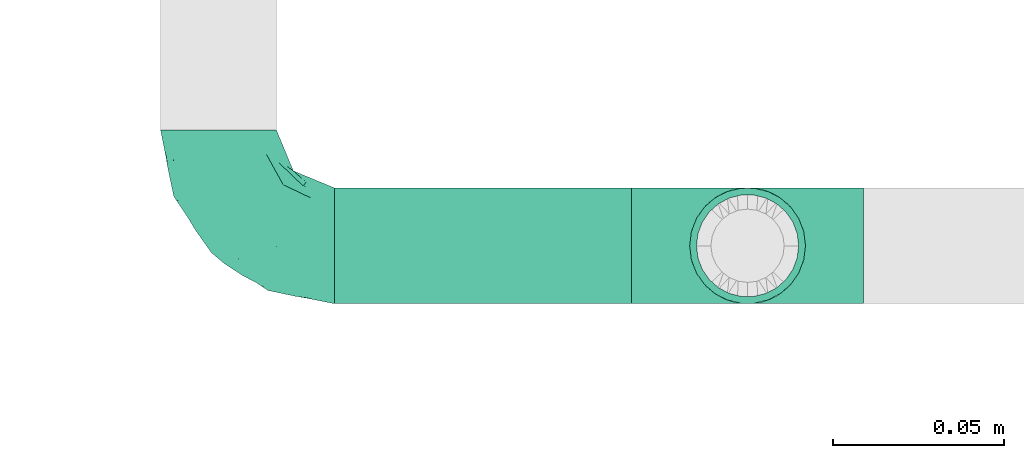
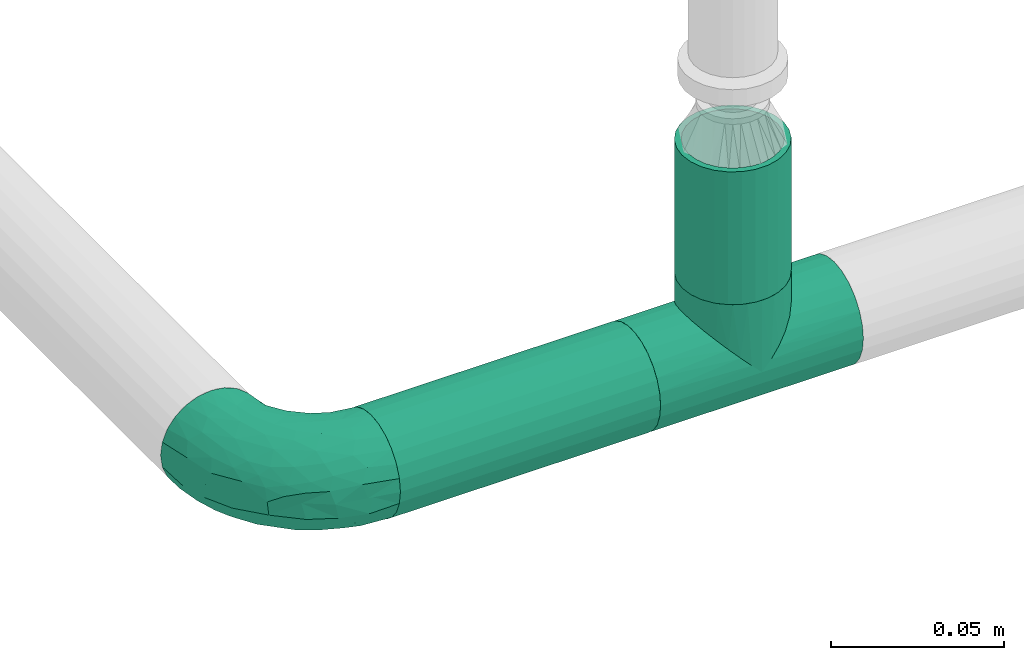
# One storey, part 52 of 157: 2 flow fittings, 2 flow segments.
"""IFC2X3 building model written with IfcOpenShell, lengths in millimetres."""

from ifc_helpers import new_model, entity, si_unit, converted_unit, derived_unit, direction, frame, origin_with_axes, origin_2d_with_axis, place, context, subcontext, project, spatial, hollow_circle, extrude, open_shell, surface_model, source, transform, mapped, type_object, element, save


model = new_model("IFC2X3")

# Units and contexts
model_context = context("Model", 3, precision=0.01, world=frame((0.0, 4.29681676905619e-09, 0.0)), true_north=direction((4.01073788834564e-13, 1.0)))
plan_context = context("Plan", 3, precision=0.01, world=frame((0.0, 4.29681676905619e-09, 0.0)), true_north=direction((4.01073788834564e-13, 1.0)))
body_context = subcontext(model_context, "Body", "Model", "MODEL_VIEW")
ifc_project = project(units=[converted_unit("PLANEANGLEUNIT", "DEGREE", entity("IfcPositiveLengthMeasure", 0.0174532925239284), si_unit("PLANEANGLEUNIT", "RADIAN"), dimensions=[0, 0, 0, 0, 0, 0, 0]), si_unit("AREAUNIT", "SQUARE_METRE"), si_unit("LENGTHUNIT", "METRE", prefix="MILLI"), si_unit("MASSUNIT", "GRAM", prefix="KILO"), si_unit("POWERUNIT", "WATT"), si_unit("PRESSUREUNIT", "PASCAL"), si_unit("FORCEUNIT", "NEWTON", prefix="KILO"), si_unit("ELECTRICCURRENTUNIT", "AMPERE"), si_unit("THERMODYNAMICTEMPERATUREUNIT", "DEGREE_CELSIUS"), si_unit("TIMEUNIT", "SECOND"), si_unit("VOLUMEUNIT", "CUBIC_METRE"), derived_unit("LINEARVELOCITYUNIT", [(si_unit("LENGTHUNIT", "METRE"), 1), (si_unit("TIMEUNIT", "SECOND"), -1)]), derived_unit("VOLUMETRICFLOWRATEUNIT", [(si_unit("VOLUMEUNIT", "CUBIC_METRE"), 1), (si_unit("TIMEUNIT", "SECOND"), -1)]), derived_unit("THERMALTRANSMITTANCEUNIT", [(si_unit("POWERUNIT", "WATT"), 1), (si_unit("THERMODYNAMICTEMPERATUREUNIT", "KELVIN"), -1), (si_unit("AREAUNIT", "SQUARE_METRE"), -1)])], contexts=[model_context, plan_context])

# Site, building, storey
site_placement = place(None, frame((0.0, -4.29681676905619e-09, 0.0), z_axis=(0.0, 0.0, 1.0), x_axis=(1.0, 0.0, 0.0)))
site = spatial("IfcSite", under=ifc_project, at=site_placement, CompositionType="ELEMENT")
building_placement = place(site_placement, frame((0.0, 4.29681676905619e-09, 0.0), z_axis=(0.0, 0.0, 1.0), x_axis=(1.0, 0.0, 0.0)))
building = spatial("IfcBuilding", under=site, at=building_placement, Name="mc-building", CompositionType="ELEMENT")
storey_placement = place(building_placement, frame((0.0, 0.0, 204000.0), z_axis=(0.0, 0.0, 1.0), x_axis=(1.0, 0.0, 0.0)))
storey = spatial("IfcBuildingStorey", under=building, at=storey_placement, Name="Nivå D", CompositionType="ELEMENT", Elevation=204000.0)

# Flow fittings
pipe_fitting_type_1 = type_object("IfcPipeFittingType", Name="magi_pipe_fe_tee_centric_90_NOR", PredefinedType="JUNCTION")
shared_shape_1 = source(origin_with_axes(), body_context, "Body", "SurfaceModel", [
    surface_model("IfcShellBasedSurfaceModel", [(-33.8, 4.37404, -16.32415), (-33.8, 0.0, -16.9), (-33.8, 16.32415, -4.37404), (-33.8, 8.45, -14.63583), (-33.8, 11.9501, -11.9501), (-33.8, 14.63583, -8.45), (-33.8, -16.9, 0.0), (-33.8, -11.9501, -11.9501), (-33.8, -14.63583, -8.45), (-33.8, -8.45, -14.63583), (-33.8, -4.37404, -16.32415), (-33.8, -16.32415, -4.37404), (-33.8, 14.63583, 8.45), (-33.8, 16.32415, 4.37404), (-33.8, -8.45, 14.63583), (-33.8, 8.45, 14.63583), (-33.8, 11.9501, 11.9501), (-33.8, 4.37404, 16.32415), (-33.8, 0.0, 16.9), (-33.8, -11.9501, 11.9501), (-33.8, -14.63583, 8.45), (-33.8, -16.32415, 4.37404), (-33.8, -4.37404, 16.32415), (-33.8, 16.9, 0.0), (33.8, 4.37404, -16.32415), (33.8, -16.9, 0.0), (33.8, 0.0, -16.9), (33.8, 14.63583, -8.45), (33.8, 8.45, -14.63583), (33.8, 16.32415, -4.37404), (33.8, 11.9501, -11.9501), (33.8, -16.32415, 4.37404), (33.8, -8.45, -14.63583), (33.8, -4.37404, -16.32415), (33.8, -11.9501, -11.9501), (33.8, -14.63583, -8.45), (33.8, -16.32415, -4.37404), (33.8, 16.32415, 4.37404), (33.8, 8.45, 14.63583), (33.8, 14.63583, 8.45), (33.8, 11.9501, 11.9501), (33.8, -8.45, 14.63583), (33.8, 4.37404, 16.32415), (33.8, -14.63583, 8.45), (33.8, -11.9501, 11.9501), (33.8, 0.0, 16.9), (33.8, -4.37404, 16.32415), (33.8, 16.9, 0.0), (16.28698, -16.28698, 4.51047), (16.9, -16.9, 0.0), (14.62704, -14.62704, 8.4652), (9.47213, -9.47213, 13.99602), (12.26343, -12.26343, 11.62834), (-16.9, -16.9, 0.0), (-16.28698, -16.28698, 4.51047), (-14.62704, -14.62704, 8.4652), (-12.26343, -12.26343, 11.62834), (-9.47213, -9.47213, 13.99602), (-6.42894, -6.42894, 15.62942), (6.42894, -6.42894, 15.62942), (3.24522, -3.24522, 16.58549), (0.0, 0.0, 16.9), (-3.24522, -3.24522, 16.58549), (3.24522, -3.24522, -16.58549), (0.0, 0.0, -16.9), (-3.24522, -3.24522, -16.58549), (-6.42894, -6.42894, -15.62942), (6.42894, -6.42894, -15.62942), (9.47213, -9.47213, -13.99602), (12.26343, -12.26343, -11.62834), (14.62704, -14.62704, -8.4652), (16.28698, -16.28698, -4.51047), (-9.47213, -9.47213, -13.99602), (-12.26343, -12.26343, -11.62834), (-16.28698, -16.28698, -4.51047), (-14.62704, -14.62704, -8.4652), (4.37404, -25.35, -16.32415), (-16.9, -25.35, 0.0), (0.0, -25.35, -16.9), (14.63583, -25.35, -8.45), (8.45, -25.35, -14.63583), (16.32415, -25.35, -4.37404), (11.9501, -25.35, -11.9501), (-11.9501, -25.35, -11.9501), (-8.45, -25.35, -14.63583), (-4.37404, -25.35, -16.32415), (-14.63583, -25.35, -8.45), (-16.32415, -25.35, -4.37404), (16.9, -25.35, 0.0), (8.45, -25.35, 14.63583), (16.32415, -25.35, 4.37404), (14.63583, -25.35, 8.45), (-8.45, -25.35, 14.63583), (11.9501, -25.35, 11.9501), (4.37404, -25.35, 16.32415), (-16.32415, -25.35, 4.37404), (-11.9501, -25.35, 11.9501), (-14.63583, -25.35, 8.45), (0.0, -25.35, 16.9), (-4.37404, -25.35, 16.32415)], [open_shell([[[0, 1, 2]], [[3, 0, 4]], [[0, 2, 5]], [[4, 0, 5]], [[6, 2, 1]], [[7, 8, 9]], [[1, 10, 9]], [[11, 6, 8]], [[1, 9, 8]], [[1, 8, 6]], [[6, 12, 2]], [[12, 13, 2]], [[14, 12, 6]], [[12, 14, 15]], [[16, 12, 15]], [[17, 15, 18]], [[19, 14, 20]], [[21, 20, 14]], [[22, 18, 14]], [[14, 6, 21]], [[14, 18, 15]], [[23, 2, 13]], [[24, 25, 26]], [[27, 24, 28]], [[27, 29, 24]], [[27, 28, 30]], [[31, 25, 24]], [[26, 32, 33]], [[26, 34, 32]], [[35, 25, 36]], [[35, 34, 26]], [[25, 35, 26]], [[24, 29, 31]], [[29, 37, 38]], [[38, 37, 39]], [[38, 31, 29]], [[38, 39, 40]], [[41, 38, 42]], [[43, 41, 44]], [[41, 43, 31]], [[41, 45, 46]], [[41, 31, 38]], [[42, 45, 41]], [[29, 47, 37]], [[31, 43, 48]], [[25, 31, 49]], [[49, 31, 48]], [[43, 50, 48]], [[44, 41, 51]], [[50, 43, 52]], [[51, 52, 44]], [[52, 43, 44]], [[53, 54, 21]], [[53, 21, 6]], [[21, 54, 20]], [[54, 55, 20]], [[56, 57, 19]], [[19, 20, 56]], [[19, 57, 14]], [[56, 20, 55]], [[14, 57, 58]], [[51, 41, 59]], [[60, 45, 61]], [[59, 46, 60]], [[46, 59, 41]], [[60, 46, 45]], [[61, 45, 42]], [[39, 37, 13]], [[16, 38, 40]], [[12, 40, 39]], [[42, 38, 15]], [[23, 37, 47]], [[62, 61, 18]], [[62, 22, 58]], [[22, 62, 18]], [[58, 22, 14]], [[61, 17, 18]], [[42, 17, 61]], [[15, 17, 42]], [[15, 38, 16]], [[12, 16, 40]], [[13, 12, 39]], [[37, 23, 13]], [[5, 27, 30]], [[23, 47, 29]], [[30, 28, 3]], [[27, 2, 29]], [[26, 33, 63]], [[26, 64, 24]], [[64, 26, 63]], [[28, 24, 0]], [[64, 0, 24]], [[4, 30, 3]], [[2, 27, 5]], [[5, 30, 4]], [[2, 23, 29]], [[65, 66, 10]], [[1, 0, 64]], [[1, 65, 10]], [[66, 9, 10]], [[0, 3, 28]], [[1, 64, 65]], [[63, 33, 67]], [[32, 34, 68]], [[69, 68, 34]], [[35, 70, 69]], [[69, 34, 35]], [[32, 68, 67]], [[36, 25, 49]], [[36, 71, 35]], [[71, 36, 49]], [[35, 71, 70]], [[72, 9, 66]], [[72, 7, 9]], [[7, 72, 73]], [[7, 73, 8]], [[74, 53, 11]], [[75, 74, 8]], [[74, 11, 8]], [[11, 53, 6]], [[75, 8, 73]], [[32, 67, 33]], [[76, 77, 78]], [[79, 76, 80]], [[79, 81, 76]], [[79, 80, 82]], [[77, 76, 81]], [[78, 83, 84]], [[84, 85, 78]], [[86, 77, 87]], [[83, 78, 86]], [[77, 86, 78]], [[81, 88, 77]], [[89, 88, 90]], [[89, 90, 91]], [[92, 77, 89]], [[89, 91, 93]], [[92, 89, 94]], [[95, 96, 97]], [[96, 95, 92]], [[92, 98, 99]], [[95, 77, 92]], [[94, 98, 92]], [[89, 77, 88]], [[77, 95, 53]], [[54, 53, 95]], [[97, 96, 56]], [[96, 92, 57]], [[95, 97, 54]], [[58, 92, 99]], [[55, 54, 97]], [[56, 55, 97]], [[58, 57, 92]], [[98, 61, 62]], [[58, 99, 62]], [[56, 96, 57]], [[62, 99, 98]], [[94, 60, 98]], [[89, 59, 94]], [[91, 90, 48]], [[52, 93, 91]], [[93, 51, 89]], [[49, 90, 88]], [[59, 60, 94]], [[51, 59, 89]], [[49, 48, 90]], [[50, 52, 91]], [[48, 50, 91]], [[51, 93, 52]], [[98, 60, 61]], [[88, 81, 49]], [[71, 49, 81]], [[79, 82, 69]], [[82, 80, 68]], [[81, 79, 71]], [[67, 80, 76]], [[70, 71, 79]], [[69, 70, 79]], [[67, 68, 80]], [[78, 64, 63]], [[67, 76, 63]], [[69, 82, 68]], [[63, 76, 78]], [[85, 65, 78]], [[84, 66, 85]], [[86, 87, 74]], [[86, 73, 83]], [[72, 84, 83]], [[53, 87, 77]], [[66, 65, 85]], [[72, 66, 84]], [[53, 74, 87]], [[75, 73, 86]], [[74, 75, 86]], [[72, 83, 73]], [[78, 65, 64]]])]),
])
flow_fitting_1_placement = place(storey_placement, frame((518840.35, 411870.36705, 2930.0), z_axis=(0.0, 1.0, 0.0), x_axis=(1.0, 0.0, 0.0)))
element("IfcFlowFitting", 1, at=flow_fitting_1_placement, inside=storey, type_object=pipe_fitting_type_1, Name="magi_pipe_fe_tee_centric_90_NOR", context=body_context, shape_type="MappedRepresentation", body=[
    mapped(shared_shape_1, transform((0.0, 0.0, 0.0), scale=1.0)),
])
pipe_fitting_type_2 = type_object("IfcPipeFittingType", Name="magi_pipe_fe_elbow_short_001", PredefinedType="BEND")
shared_shape_2 = source(origin_with_axes(), body_context, "Body", "SurfaceModel", [
    surface_model("IfcShellBasedSurfaceModel", [(-33.8, 8.45, -14.63583), (-33.8, 4.37404, -16.32415), (-33.8, 11.9501, -11.9501), (-33.8, -11.9501, -11.9501), (-33.8, -14.63583, -8.45), (-33.8, -8.45, -14.63583), (-33.8, 0.0, -16.9), (-33.8, -4.37404, -16.32415), (-33.8, -4.37404, 16.32415), (-33.8, 0.0, 16.9), (-33.8, -8.45, 14.63583), (-33.8, 16.32415, -4.37404), (-33.8, 14.63583, -8.45), (-33.8, -16.32415, -4.37404), (-33.8, -16.9, 0.0), (-33.8, -16.32415, 4.37404), (-33.8, 11.9501, 11.9501), (-33.8, 14.63583, 8.45), (-33.8, 16.32415, 4.37404), (-33.8, 4.37404, 16.32415), (-33.8, 8.45, 14.63583), (-33.8, -14.63583, 8.45), (-33.8, -11.9501, 11.9501), (-33.8, 16.9, 0.0), (-11.9501, 33.8, -11.9501), (0.0, 33.8, -16.9), (-4.37404, 33.8, -16.32415), (-8.45, 33.8, -14.63583), (-14.63583, 33.8, -8.45), (-16.32415, 33.8, -4.37404), (14.63583, 33.8, -8.45), (8.45, 33.8, 14.63583), (16.32415, 33.8, -4.37404), (8.45, 33.8, -14.63583), (11.9501, 33.8, -11.9501), (4.37404, 33.8, -16.32415), (16.32415, 33.8, 4.37404), (16.9, 33.8, 0.0), (-11.9501, 33.8, 11.9501), (-16.32415, 33.8, 4.37404), (-14.63583, 33.8, 8.45), (-8.45, 33.8, 14.63583), (-4.37404, 33.8, 16.32415), (11.9501, 33.8, 11.9501), (14.63583, 33.8, 8.45), (0.0, 33.8, 16.9), (4.37404, 33.8, 16.32415), (-16.9, 33.8, 0.0), (-24.79389, -13.12945, 9.48721), (-22.19287, -9.75018, 12.59315), (-24.09897, -14.97035, 0.0), (-14.93934, -10.76256, 8.5297), (-22.46095, -14.75051, 5.27077), (14.75051, 22.46094, 5.27077), (11.9251, 13.23888, 4.33236), (13.04069, 14.39795, 0.0), (7.71387, 13.68847, 11.55891), (9.75018, 22.19287, 12.59315), (4.10169, 13.0571, 14.04018), (-24.84007, -6.39063, 15.2048), (-25.81779, -2.23879, 16.61097), (-23.66549, 2.59054, 16.87119), (-26.50418, 14.06512, 11.08152), (-24.21253, 17.66365, 7.72657), (-29.58514, 15.86957, 7.00283), (-6.17382, -7.5455, 0.0), (-13.23888, -11.9251, 4.33236), (-14.39795, -13.04069, 0.0), (-17.81434, 18.87373, 11.97104), (-6.30846, 29.15138, 15.82987), (-2.31622, 25.28002, 16.85849), (-29.23923, 10.23435, 13.77053), (-1.45439, -2.85688, 7.61475), (-0.28326, 0.34872, 10.09509), (-5.74484, -4.04709, 10.4122), (-4.41137, 11.31918, 16.59407), (-8.39727, 3.10034, 15.7812), (-1.72649, 9.1306, 15.53089), (-17.39909, 24.75344, 7.64977), (-26.19233, 20.0512, 0.0), (-28.14518, 17.29657, 4.25857), (-26.05147, 6.6281, 15.96447), (-5.87354, 16.61944, 16.86968), (-12.51807, 12.51807, 16.48937), (-10.06312, 7.38516, 16.81295), (-3.01882, 3.01882, 13.81718), (-13.0571, -4.10169, 14.04018), (-16.82553, -0.15166, 16.38038), (10.76256, 14.93934, 8.5297), (13.12945, 24.79389, 9.48721), (6.39063, 24.84007, 15.2048), (2.23879, 25.81779, 16.61097), (-13.68847, -7.71387, 11.55891), (14.97035, 24.09897, 0.0), (-7.30894, 22.89991, 16.09489), (-10.67958, 26.17414, 14.008), (-12.78295, 18.26924, 15.06066), (-13.88562, 22.45231, 12.93244), (-18.04944, 15.16501, 14.04434), (-23.11658, 20.08178, 4.02986), (-21.84989, 21.84989, 0.0), (-18.55817, 25.48277, 3.93065), (-13.95142, 26.94732, 11.03289), (-18.57098, 7.23906, 16.59756), (-16.58335, 4.14122, 16.89279), (-17.96666, 11.46709, 15.63151), (-9.84453, 17.54304, 16.18938), (0.15166, 16.82553, 16.38038), (-23.27207, 11.47201, 14.23154), (3.84842, 5.86994, 10.70473), (-8.0212, -7.54413, 7.93275), (1.00345, -2.19508, 4.57414), (5.13203, 3.01004, 5.90201), (5.24161, 1.7543, 2.53265), (8.70457, 7.04947, 3.99182), (-20.0512, 26.19233, 0.0), (8.4852, 8.76699, 7.09296), (-4.55488, -6.72064, 4.90681), (2.05031, -2.05031, 0.0), (7.5455, 6.17382, 0.0), (-26.75399, 2.1369, -16.845), (-14.61995, 24.73803, -11.27736), (-28.45274, -13.45335, -9.81895), (-26.00469, 6.63555, -15.96645), (-23.06726, 20.04573, -4.26202), (-13.80647, -4.26506, -14.17873), (-14.67501, -0.21081, -16.07388), (-6.7902, -0.2828, -13.8478), (-24.53586, 11.08096, -14.13417), (-26.72048, 14.00837, -11.05776), (10.0967, 24.44989, -12.75976), (5.83237, 21.40218, -15.03047), (6.66249, 28.54238, -15.38093), (-20.38182, 15.48705, -12.74596), (12.53268, 21.23441, -9.15363), (12.54494, 15.67504, -5.54878), (9.7522, 12.89279, -8.66343), (-15.65186, 19.64213, -13.01327), (-12.03528, 20.66498, -14.67665), (-15.61907, 15.61906, -14.83879), (-25.56551, -15.26206, 0.0), (-24.65452, -15.12934, -5.50955), (13.45335, 28.45274, -9.81895), (15.12934, 24.65452, -5.50955), (-7.35442, -8.31014, -5.65563), (-15.67504, -12.54494, -5.54878), (-24.44989, -10.0967, -12.75976), (0.16522, 0.41303, -9.71728), (-5.70658, -5.33066, -8.89288), (-5.13869, -2.37198, -11.53565), (-21.23441, -12.53268, -9.15363), (0.71146, 7.93863, -14.09382), (0.21081, 14.67501, -16.07388), (3.49291, 14.42772, -14.76381), (-24.89911, -2.13088, -16.591), (-28.54238, -6.66249, -15.38093), (-18.44386, -7.71663, -13.26957), (2.13088, 24.89911, -16.591), (-28.64342, 17.44413, -2.89318), (1.70017, -1.28722, -5.09504), (-16.57067, 26.81947, -7.36596), (-17.69055, 27.4263, -3.76405), (-12.89279, -9.7522, -8.66343), (-5.96611, 5.96611, -15.95814), (-20.53709, 20.09345, -8.28985), (-2.1369, 26.75399, -16.845), (-6.89872, 24.58781, -16.02578), (-10.60739, 26.53157, -13.98044), (-21.40218, -5.83237, -15.03047), (2.93192, 5.89627, -11.55917), (6.89393, 12.61842, -11.82233), (5.58056, 5.95325, -8.79455), (-3.99512, 18.61798, -16.89635), (8.31014, 7.35442, -5.65563), (-9.1383, 9.86148, -16.89041), (-9.99983, 16.02119, -16.39699), (-16.68576, 9.78031, -16.34199), (-27.01915, 16.61158, -7.12979), (15.26206, 25.56551, 0.0), (-18.61798, 3.99512, -16.89635), (-19.37495, 27.82495, 0.0), (-12.61842, -6.89393, -11.82233), (-18.84705, 19.14018, -10.96545)], [open_shell([[[0, 1, 2]], [[3, 4, 5]], [[6, 7, 5]], [[8, 9, 10]], [[1, 6, 2]], [[11, 12, 2]], [[4, 2, 6]], [[2, 13, 10]], [[5, 4, 6]], [[2, 4, 13]], [[14, 15, 13]], [[11, 2, 16]], [[11, 17, 18]], [[11, 16, 17]], [[19, 20, 16]], [[16, 2, 10]], [[19, 16, 10]], [[21, 22, 15]], [[22, 13, 15]], [[22, 10, 13]], [[10, 9, 19]], [[11, 18, 23]], [[24, 25, 26]], [[24, 26, 27]], [[24, 28, 29]], [[25, 24, 30]], [[31, 32, 24]], [[33, 30, 34]], [[33, 35, 25]], [[25, 30, 33]], [[32, 30, 24]], [[32, 36, 37]], [[38, 24, 29]], [[39, 40, 29]], [[40, 38, 29]], [[38, 41, 42]], [[38, 31, 24]], [[31, 38, 42]], [[36, 43, 44]], [[36, 32, 43]], [[31, 45, 46]], [[32, 31, 43]], [[42, 45, 31]], [[39, 29, 47]], [[22, 48, 49]], [[15, 14, 50]], [[51, 48, 52]], [[53, 54, 55]], [[48, 22, 21]], [[15, 52, 21]], [[56, 57, 58]], [[49, 10, 22]], [[49, 59, 10]], [[9, 60, 61]], [[62, 63, 64]], [[65, 66, 67]], [[57, 43, 31]], [[62, 68, 63]], [[42, 69, 70]], [[20, 71, 16]], [[8, 60, 9]], [[72, 73, 74]], [[75, 76, 77]], [[16, 62, 17]], [[40, 39, 78]], [[79, 23, 80]], [[64, 18, 17]], [[9, 61, 19]], [[19, 81, 20]], [[82, 83, 84]], [[74, 85, 86]], [[59, 86, 87]], [[88, 89, 57]], [[90, 31, 46]], [[44, 53, 36]], [[46, 45, 91]], [[54, 53, 88]], [[44, 89, 53]], [[92, 86, 49]], [[89, 44, 43]], [[10, 59, 8]], [[53, 55, 93]], [[93, 36, 53]], [[66, 52, 67]], [[94, 82, 70]], [[95, 96, 94]], [[97, 98, 96]], [[79, 99, 100]], [[41, 38, 95]], [[101, 100, 99]], [[68, 78, 63]], [[42, 41, 69]], [[23, 18, 80]], [[95, 94, 69]], [[78, 101, 99]], [[38, 102, 95]], [[70, 45, 42]], [[97, 95, 102]], [[15, 50, 52]], [[90, 57, 31]], [[57, 90, 58]], [[81, 19, 61]], [[103, 104, 84]], [[105, 81, 103]], [[38, 40, 102]], [[106, 96, 83]], [[94, 106, 82]], [[91, 70, 107]], [[71, 62, 16]], [[62, 108, 98]], [[86, 59, 49]], [[67, 52, 50]], [[60, 59, 87]], [[92, 49, 51]], [[86, 85, 76]], [[91, 90, 46]], [[37, 36, 93]], [[107, 77, 58]], [[107, 58, 90]], [[58, 85, 109]], [[110, 74, 92]], [[72, 74, 110]], [[66, 51, 52]], [[72, 111, 112]], [[113, 114, 112]], [[56, 88, 57]], [[52, 48, 21]], [[49, 48, 51]], [[57, 89, 43]], [[53, 89, 88]], [[103, 81, 61]], [[71, 81, 108]], [[18, 64, 80]], [[63, 78, 99]], [[47, 115, 101]], [[101, 115, 100]], [[40, 78, 102]], [[68, 102, 78]], [[97, 96, 95]], [[105, 98, 108]], [[103, 84, 83]], [[107, 70, 82]], [[76, 84, 87]], [[82, 84, 75]], [[70, 91, 45]], [[90, 91, 107]], [[59, 60, 8]], [[61, 60, 87]], [[73, 85, 74]], [[109, 112, 116]], [[103, 61, 104]], [[105, 103, 83]], [[96, 105, 83]], [[81, 105, 108]], [[96, 98, 105]], [[62, 98, 68]], [[61, 87, 104]], [[87, 84, 104]], [[86, 76, 87]], [[77, 76, 85]], [[58, 77, 85]], [[75, 77, 107]], [[82, 75, 107]], [[76, 75, 84]], [[81, 71, 20]], [[62, 71, 108]], [[95, 69, 41]], [[70, 69, 94]], [[62, 64, 17]], [[80, 63, 99]], [[63, 80, 64]], [[80, 99, 79]], [[66, 65, 117]], [[110, 66, 117]], [[112, 114, 116]], [[118, 117, 65]], [[110, 92, 51]], [[112, 111, 113]], [[119, 55, 54]], [[74, 86, 92]], [[58, 109, 56]], [[116, 56, 109]], [[66, 110, 51]], [[72, 110, 117]], [[111, 72, 117]], [[73, 112, 109]], [[117, 118, 111]], [[113, 111, 118]], [[118, 119, 113]], [[114, 119, 54]], [[119, 114, 113]], [[116, 54, 88]], [[54, 116, 114]], [[116, 88, 56]], [[112, 73, 72]], [[85, 73, 109]], [[78, 39, 101]], [[47, 101, 39]], [[102, 68, 97]], [[97, 68, 98]], [[82, 106, 83]], [[94, 96, 106]], [[1, 120, 6]], [[28, 24, 121]], [[3, 122, 4]], [[0, 123, 1]], [[100, 124, 79]], [[125, 126, 127]], [[128, 2, 129]], [[130, 131, 132]], [[128, 129, 133]], [[134, 135, 136]], [[137, 138, 139]], [[128, 0, 2]], [[67, 140, 141]], [[134, 142, 143]], [[141, 13, 4]], [[144, 65, 145]], [[146, 3, 5]], [[147, 148, 149]], [[145, 141, 150]], [[151, 152, 153]], [[154, 7, 6]], [[5, 155, 146]], [[150, 146, 156]], [[155, 5, 7]], [[143, 135, 134]], [[35, 157, 25]], [[23, 79, 158]], [[148, 159, 144]], [[160, 161, 29]], [[145, 162, 144]], [[163, 152, 151]], [[29, 28, 160]], [[121, 164, 160]], [[33, 34, 130]], [[25, 165, 26]], [[26, 165, 166]], [[142, 34, 30]], [[24, 27, 167]], [[124, 161, 164]], [[157, 35, 132]], [[155, 154, 168]], [[123, 0, 128]], [[169, 170, 171]], [[172, 157, 152]], [[26, 166, 27]], [[132, 35, 33]], [[142, 130, 34]], [[168, 154, 126]], [[136, 135, 173]], [[133, 137, 139]], [[2, 12, 129]], [[170, 131, 130]], [[30, 32, 143]], [[172, 174, 175]], [[176, 123, 128]], [[158, 177, 11]], [[135, 55, 119]], [[167, 27, 166]], [[175, 166, 172]], [[137, 167, 138]], [[122, 141, 4]], [[140, 14, 13]], [[32, 37, 178]], [[170, 130, 134]], [[152, 157, 131]], [[165, 157, 172]], [[153, 170, 151]], [[152, 163, 174]], [[168, 125, 156]], [[122, 146, 150]], [[120, 154, 6]], [[179, 174, 126]], [[179, 126, 154]], [[126, 163, 127]], [[162, 145, 150]], [[140, 13, 141]], [[32, 178, 143]], [[55, 143, 178]], [[177, 129, 12]], [[128, 133, 139]], [[176, 128, 139]], [[120, 123, 179]], [[121, 160, 28]], [[161, 100, 180]], [[166, 175, 138]], [[121, 24, 167]], [[161, 47, 29]], [[79, 124, 158]], [[124, 164, 177]], [[161, 124, 100]], [[136, 171, 170]], [[127, 163, 151]], [[147, 171, 159]], [[148, 144, 162]], [[127, 151, 169]], [[127, 181, 125]], [[129, 177, 164]], [[12, 11, 177]], [[159, 65, 144]], [[67, 141, 145]], [[143, 55, 135]], [[135, 119, 173]], [[123, 120, 1]], [[154, 120, 179]], [[157, 165, 25]], [[166, 165, 172]], [[172, 152, 174]], [[176, 139, 175]], [[126, 174, 163]], [[176, 174, 179]], [[174, 176, 175]], [[123, 176, 179]], [[150, 181, 162]], [[127, 149, 181]], [[181, 148, 162]], [[159, 148, 147]], [[171, 136, 173]], [[170, 134, 136]], [[159, 171, 173]], [[171, 147, 169]], [[169, 147, 149]], [[151, 170, 169]], [[164, 182, 129]], [[182, 121, 137]], [[181, 149, 148]], [[169, 149, 127]], [[182, 137, 133]], [[167, 137, 121]], [[166, 138, 167]], [[175, 139, 138]], [[129, 182, 133]], [[121, 182, 164]], [[161, 160, 164]], [[47, 161, 180]], [[177, 158, 124]], [[23, 158, 11]], [[130, 132, 33]], [[157, 132, 131]], [[143, 142, 30]], [[130, 142, 134]], [[154, 155, 7]], [[146, 155, 168]], [[146, 122, 3]], [[141, 122, 150]], [[152, 131, 153]], [[159, 119, 118]], [[67, 145, 65]], [[170, 153, 131]], [[119, 159, 173]], [[159, 118, 65]], [[156, 125, 181]], [[126, 125, 168]], [[150, 156, 181]], [[168, 156, 146]]])]),
])
flow_fitting_2_placement = place(storey_placement, frame((518685.97464, 411870.36705, 2930.0), z_axis=(0.0, 0.0, 1.0), x_axis=(0.0, -1.0, 0.0)))
element("IfcFlowFitting", 2, at=flow_fitting_2_placement, inside=storey, type_object=pipe_fitting_type_2, Name="magi_pipe_fe_elbow_short_001", context=body_context, shape_type="MappedRepresentation", body=[
    mapped(shared_shape_2, transform((0.0, 0.0, 0.0), scale=1.0)),
])

# Flow segments
pipe_segment_type = type_object("IfcPipeSegmentType", Name="Stålrør normaltykke", PredefinedType="RIGIDSEGMENT")
shared_shape_3 = source(origin_with_axes(), body_context, "Body", "SweptSolid", [
    extrude(hollow_circle(Radius=16.9, WallThickness=2.0, at=origin_2d_with_axis()), frame((0.0, 0.0, 0.0), z_axis=(1.0, 0.0, 0.0), x_axis=(0.0, 1.0, 0.0)), (0.0, 0.0, 1.0), 86.8),
])
flow_segment_1_placement = place(storey_placement, frame((518806.55, 411870.36705, 2930.0), z_axis=(0.0, 0.0, 1.0), x_axis=(-1.0, 0.0, 0.0)))
element("IfcFlowSegment", 3, at=flow_segment_1_placement, inside=storey, type_object=pipe_segment_type, Name="Stålrør normaltykke", context=body_context, shape_type="MappedRepresentation", body=[
    mapped(shared_shape_3, transform((0.0, 0.0, 0.0), scale=1.0)),
])
shared_shape_4 = source(origin_with_axes(), body_context, "Body", "SweptSolid", [
    extrude(hollow_circle(Radius=16.9, WallThickness=2.0, at=origin_2d_with_axis()), frame((0.0, 0.0, 0.0), z_axis=(1.0, 0.0, 0.0), x_axis=(0.0, 1.0, 0.0)), (0.0, 0.0, 1.0), 46.8),
])
flow_segment_2_placement = place(storey_placement, frame((518840.35, 411870.36705, 3002.14799999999), z_axis=(0.0, 1.0, 0.0), x_axis=(0.0, 0.0, -1.0)))
element("IfcFlowSegment", 4, at=flow_segment_2_placement, inside=storey, type_object=pipe_segment_type, Name="Stålrør normaltykke", context=body_context, shape_type="MappedRepresentation", body=[
    mapped(shared_shape_4, transform((0.0, 0.0, 0.0), scale=1.0)),
])

save(model, "model.ifc")
